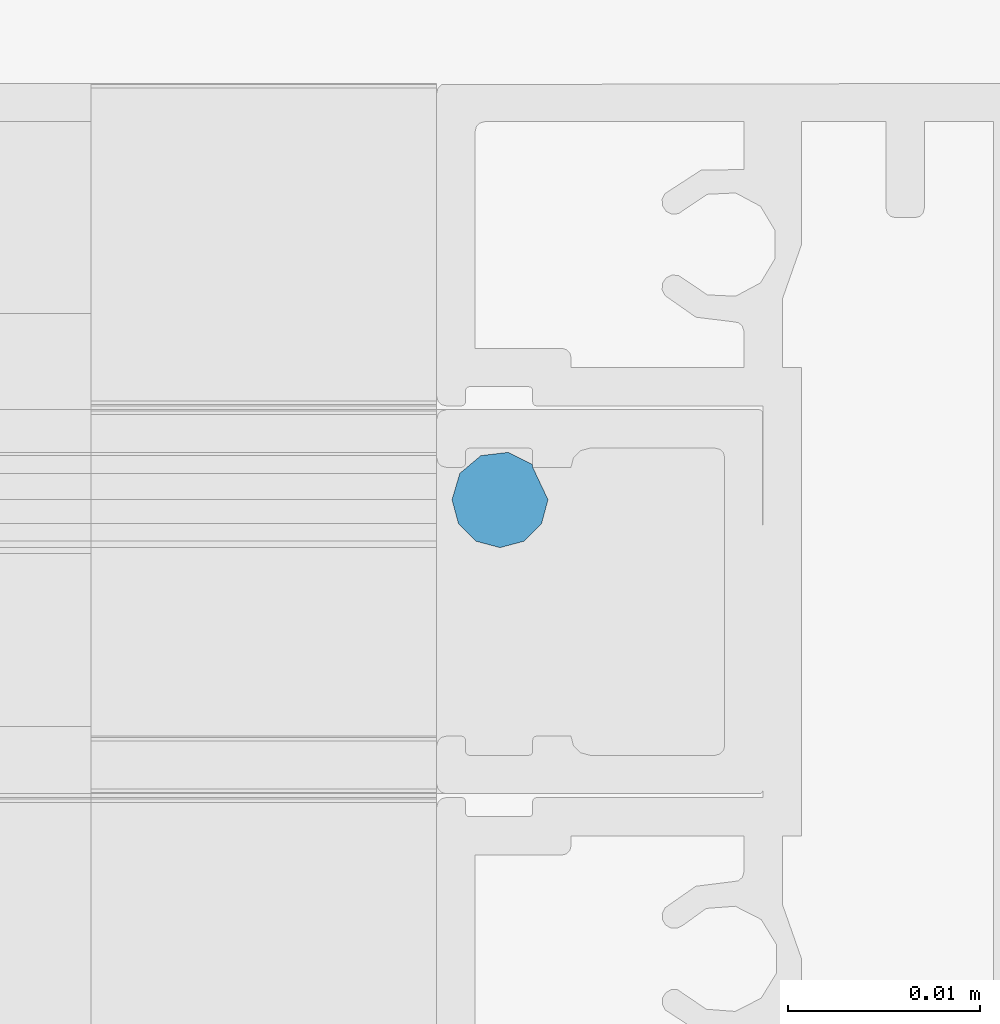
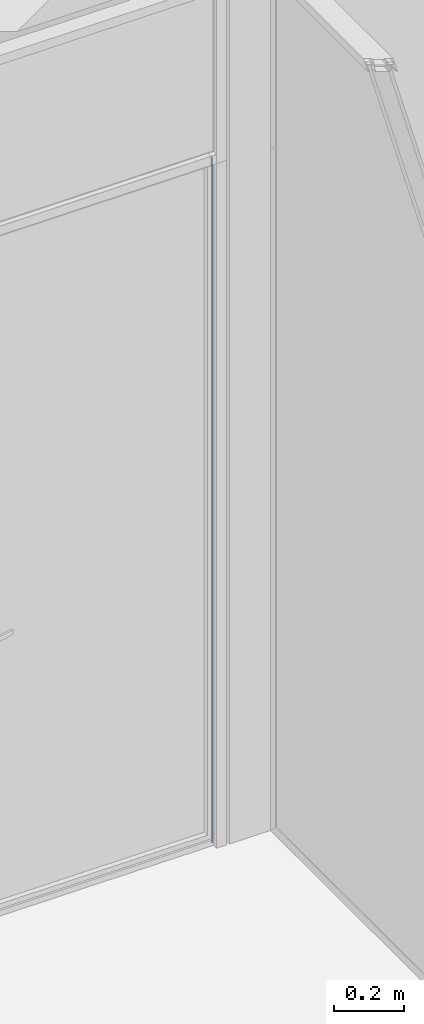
# One storey, part 39 of 387: 1 building element part, 2 elements without a shape of their own.
"""IFC2X3 building model written with IfcOpenShell, lengths in millimetres."""

from ifc_helpers import new_model, entity, si_unit, converted_unit, derived_unit, money_unit, direction, frame, origin_with_axes, place, context, subcontext, project, spatial, faceted_brep, source, transform, mapped, material, type_object, element, aggregate, save


model = new_model("IFC2X3")

# Units and contexts
model_context = context("Model", 3, precision=0.01, world=origin_with_axes(), true_north=direction((0.0, 1.0)))
body_context = subcontext(model_context, "Body", "Model", "MODEL_VIEW")
ifc_project = project(units=[si_unit("LENGTHUNIT", "METRE", prefix="MILLI"), si_unit("AREAUNIT", "SQUARE_METRE"), si_unit("VOLUMEUNIT", "CUBIC_METRE"), converted_unit("PLANEANGLEUNIT", "DEGREE", entity("IfcPlaneAngleMeasure", 0.0174532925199), si_unit("PLANEANGLEUNIT", "RADIAN"), dimensions=[0, 0, 0, 0, 0, 0, 0]), si_unit("SOLIDANGLEUNIT", "STERADIAN"), money_unit("EUR"), converted_unit("TIMEUNIT", "Year", entity("IfcTimeMeasure", 31556926.0), si_unit("TIMEUNIT", "SECOND"), dimensions=[0, 0, 1, 0, 0, 0, 0]), si_unit("MASSUNIT", "GRAM", prefix="KILO"), si_unit("THERMODYNAMICTEMPERATUREUNIT", "DEGREE_CELSIUS"), si_unit("LUMINOUSINTENSITYUNIT", "LUMEN"), si_unit("ENERGYUNIT", "JOULE", prefix="MEGA"), derived_unit("THERMALCONDUCTANCEUNIT", [(si_unit("POWERUNIT", "WATT"), 1), (si_unit("LENGTHUNIT", "METRE"), -1), (si_unit("THERMODYNAMICTEMPERATUREUNIT", "KELVIN"), -1)]), derived_unit("SPECIFICHEATCAPACITYUNIT", [(si_unit("ENERGYUNIT", "JOULE"), 1), (si_unit("MASSUNIT", "GRAM", prefix="KILO"), -1), (si_unit("THERMODYNAMICTEMPERATUREUNIT", "KELVIN"), -1)]), derived_unit("MASSDENSITYUNIT", [(si_unit("MASSUNIT", "GRAM", prefix="KILO"), 1), (si_unit("VOLUMEUNIT", "CUBIC_METRE"), -1)])], contexts=[model_context])

# Site, building, storey
site_placement = place(None, origin_with_axes())
site = spatial("IfcSite", under=ifc_project, at=site_placement, Name="Puškini 31, Narva", CompositionType="ELEMENT")
building_placement = place(site_placement, origin_with_axes())
building = spatial("IfcBuilding", under=site, at=building_placement, Name="Narva Riigigümnaasium", CompositionType="ELEMENT")
storey_placement = place(building_placement, frame((0.0, 0.0, 2640.0), z_axis=(0.0, 0.0, 1.0), x_axis=(1.0, 0.0, 0.0)))
storey = spatial("IfcBuildingStorey", under=building, at=storey_placement, Name="2.korrus +2.64", CompositionType="ELEMENT", Elevation=2640.0)

# Curtain wall, member, building element part
curtain_wall_type = type_object("IfcCurtainWallType", Name="Curtain Wall Type", PredefinedType="NOTDEFINED")
curtain_wall_placement = place(storey_placement, frame((29819.999977, 163516.999995, -2.6516426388e-05), z_axis=(0.0, 0.0, 1.0), x_axis=(1.0, 0.0, 0.0)))
curtain_wall = element("IfcCurtainWall", 1, at=curtain_wall_placement, inside=storey, type_object=curtain_wall_type, Name="G-SKLF-46")
member_type = type_object("IfcMemberType", Name="32 x 27", PredefinedType="MULLION")
member_placement = place(curtain_wall_placement, frame((370.000000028, -1.03170805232e-08, 0.0), z_axis=(0.0, 0.0, 1.0), x_axis=(1.0, 0.0, 0.0)))
member = element("IfcMember", 2, at=member_placement, type_object=member_type, Name="G-SKLF-46-raam", ObjectType="MULLION")
aggregate(curtain_wall, [member])
ifc_material = material(Name="Soojustus - Mineraal Kõva")
shared_shape = source(origin_with_axes(), body_context, "Body", "Brep", [
    faceted_brep([(-27.0, 6.99999999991, 0.0), (-27.0, 6.99999999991, 2400.00000922), (-26.2036516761, 5.31494614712, 2400.00000922), (-26.2036516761, 5.31494614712, 0.0), (-26.9999999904, 7.14458303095, 0.0), (-26.9999999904, 7.14458303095, 2400.00000922), (-28.2816360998, 7.77906932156, 2400.00000922), (-29.7013667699, 7.60722987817, 2400.00000922), (-30.7946188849, 6.68529507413, 2400.00000922), (-31.2036516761, 5.31494614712, 2400.00000922), (-30.8687151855, 4.06494614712, 2400.00000922), (-29.9536516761, 3.14988263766, 2400.00000922), (-28.7036516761, 2.81494614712, 2400.00000922), (-27.4536516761, 3.14988263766, 2400.00000922), (-26.5385881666, 4.06494614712, 2400.00000922), (-26.5385881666, 4.06494614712, 0.0), (-27.4536516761, 3.14988263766, 0.0), (-28.7036516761, 2.81494614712, 0.0), (-29.9536516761, 3.14988263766, 0.0), (-30.8687151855, 4.06494614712, 0.0), (-31.2036516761, 5.31494614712, 0.0), (-30.7946188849, 6.68529507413, 0.0), (-29.7013667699, 7.60722987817, 0.0), (-28.2816360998, 7.77906932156, 0.0)], [[[0, 1, 2, 3]], [[4, 5, 1, 0]], [[1, 5, 6, 7, 8, 9, 10, 11, 12, 13, 14, 2]], [[3, 2, 14, 15]], [[0, 3, 15, 16, 17, 18, 19, 20, 21, 22, 23, 4]], [[23, 6, 5, 4]], [[22, 7, 6, 23]], [[21, 8, 7, 22]], [[20, 9, 8, 21]], [[19, 10, 9, 20]], [[18, 11, 10, 19]], [[17, 12, 11, 18]], [[16, 13, 12, 17]], [[15, 14, 13, 16]]]),
])
building_element_part_placement = place(member_placement, origin_with_axes())
building_element_part = element("IfcBuildingElementPart", 3, at=building_element_part_placement, material=ifc_material, Name="Soojustus - Mineraal Kõva", context=body_context, shape_type="MappedRepresentation", body=[
    mapped(shared_shape, transform((0.0, 0.0, 0.0))),
])
aggregate(member, [building_element_part])

save(model, "model.ifc")
